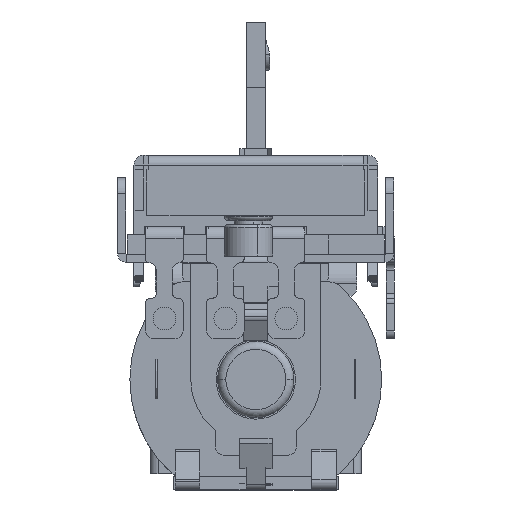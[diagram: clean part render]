
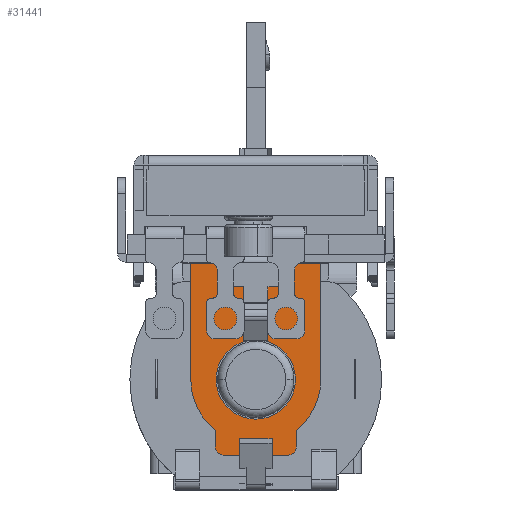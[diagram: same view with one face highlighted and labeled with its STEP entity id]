
A CAD part, left-side view. The second image highlights one B-rep face of the part: STEP entity #31441.
In plain terms, the highlighted planar face has unit normal (-1, 0, 0).
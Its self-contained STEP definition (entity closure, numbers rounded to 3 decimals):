
#3029 = DIRECTION ( 'NONE',  ( 0., 1., 0. ) ) ;
#3183 = CARTESIAN_POINT ( 'NONE',  ( 10.35, 0., -7.7 ) ) ;
#3288 = DIRECTION ( 'NONE',  ( 0., 0., -1. ) ) ;
#3500 = CARTESIAN_POINT ( 'NONE',  ( 10.35, 2.5, -10.822 ) ) ;
#3627 = CARTESIAN_POINT ( 'NONE',  ( 10.35, -4., -0.079 ) ) ;
#3670 = DIRECTION ( 'NONE',  ( 0., 0., 1. ) ) ;
#4124 = DIRECTION ( 'NONE',  ( -1., 0., 0. ) ) ;
#6091 = DIRECTION ( 'NONE',  ( 0., 1., 0. ) ) ;
#6093 = CARTESIAN_POINT ( 'NONE',  ( 10.35, -2., -12.35 ) ) ;
#6189 = DIRECTION ( 'NONE',  ( 0., -1., 0. ) ) ;
#6200 = DIRECTION ( 'NONE',  ( 1., 0., 0. ) ) ;
#6203 = CARTESIAN_POINT ( 'NONE',  ( 10.35, -2., -11.85 ) ) ;
#6751 = EDGE_CURVE ( 'NONE', #30300, #29703, #14581, .T. ) ;
#6836 = EDGE_CURVE ( 'NONE', #34550, #30205, #42075, .T. ) ;
#6848 = EDGE_CURVE ( 'NONE', #20158, #20111, #42113, .T. ) ;
#6871 = EDGE_CURVE ( 'NONE', #29703, #30916, #42149, .T. ) ;
#6911 = EDGE_CURVE ( 'NONE', #30017, #30300, #42228, .T. ) ;
#6912 = EDGE_CURVE ( 'NONE', #30205, #30017, #42233, .T. ) ;
#7043 = EDGE_CURVE ( 'NONE', #34435, #30135, #42495, .T. ) ;
#7046 = EDGE_CURVE ( 'NONE', #30135, #30064, #42492, .T. ) ;
#7186 = EDGE_CURVE ( 'NONE', #29639, #34435, #42775, .T. ) ;
#7769 = ORIENTED_EDGE ( 'NONE', *, *, #6848, .F. ) ;
#7770 = ORIENTED_EDGE ( 'NONE', *, *, #23760, .F. ) ;
#7771 = ORIENTED_EDGE ( 'NONE', *, *, #6871, .F. ) ;
#7774 = ORIENTED_EDGE ( 'NONE', *, *, #50597, .F. ) ;
#7782 = ORIENTED_EDGE ( 'NONE', *, *, #7186, .F. ) ;
#7788 = ORIENTED_EDGE ( 'NONE', *, *, #7043, .F. ) ;
#7789 = ORIENTED_EDGE ( 'NONE', *, *, #7046, .F. ) ;
#7790 = ORIENTED_EDGE ( 'NONE', *, *, #23078, .F. ) ;
#7792 = ORIENTED_EDGE ( 'NONE', *, *, #6836, .F. ) ;
#7793 = ORIENTED_EDGE ( 'NONE', *, *, #6912, .F. ) ;
#7797 = ORIENTED_EDGE ( 'NONE', *, *, #6911, .F. ) ;
#7802 = ORIENTED_EDGE ( 'NONE', *, *, #6751, .F. ) ;
#11113 = CARTESIAN_POINT ( 'NONE',  ( 10.35, -12.1, 26.021 ) ) ;
#11117 = PLANE ( 'NONE',  #53407 ) ;
#11125 = DIRECTION ( 'NONE',  ( -1., 0., 0. ) ) ;
#11126 = DIRECTION ( 'NONE',  ( 0., 1., 0. ) ) ;
#11672 = CARTESIAN_POINT ( 'NONE',  ( 10.35, 0., -7.7 ) ) ;
#11721 = DIRECTION ( 'NONE',  ( -1., 0., 0. ) ) ;
#11769 = DIRECTION ( 'NONE',  ( 0., 1., 0. ) ) ;
#14581 = LINE ( 'NONE', #44747, #14587 ) ;
#14587 = VECTOR ( 'NONE', #44596, 1000. ) ;
#15630 = CARTESIAN_POINT ( 'NONE',  ( 10.35, -2.5, -10.822 ) ) ;
#15681 = CARTESIAN_POINT ( 'NONE',  ( 10.35, -4., -0.55 ) ) ;
#15905 = CARTESIAN_POINT ( 'NONE',  ( 10.35, 4., -7.7 ) ) ;
#15931 = CARTESIAN_POINT ( 'NONE',  ( 10.35, 2., -12.35 ) ) ;
#15965 = CARTESIAN_POINT ( 'NONE',  ( 10.35, -2., -12.35 ) ) ;
#16003 = CARTESIAN_POINT ( 'NONE',  ( 10.35, 2.5, -10.822 ) ) ;
#16053 = CARTESIAN_POINT ( 'NONE',  ( 10.35, 4., -0.55 ) ) ;
#16730 = CARTESIAN_POINT ( 'NONE',  ( 10.35, -4., -7.7 ) ) ;
#20111 = VERTEX_POINT ( 'NONE', #50128 ) ;
#20158 = VERTEX_POINT ( 'NONE', #50081 ) ;
#23078 = EDGE_CURVE ( 'NONE', #30064, #34550, #36359, .T. ) ;
#23760 = EDGE_CURVE ( 'NONE', #20111, #20158, #25701, .T. ) ;
#25701 = CIRCLE ( 'NONE', #58331, 2.443 ) ;
#29639 = VERTEX_POINT ( 'NONE', #15630 ) ;
#29703 = VERTEX_POINT ( 'NONE', #15681 ) ;
#30017 = VERTEX_POINT ( 'NONE', #15905 ) ;
#30064 = VERTEX_POINT ( 'NONE', #15931 ) ;
#30135 = VERTEX_POINT ( 'NONE', #15965 ) ;
#30205 = VERTEX_POINT ( 'NONE', #16003 ) ;
#30300 = VERTEX_POINT ( 'NONE', #16053 ) ;
#30916 = VERTEX_POINT ( 'NONE', #16730 ) ;
#31441 = ADVANCED_FACE ( 'NONE', ( #34664, #34649 ), #11117, .T. ) ;
#34435 = VERTEX_POINT ( 'NONE', #44929 ) ;
#34550 = VERTEX_POINT ( 'NONE', #44959 ) ;
#34649 = FACE_BOUND ( 'NONE', #50741, .T. ) ;
#34664 = FACE_OUTER_BOUND ( 'NONE', #50752, .T. ) ;
#36359 = CIRCLE ( 'NONE', #54363, 0.5 ) ;
#40530 = DIRECTION ( 'NONE',  ( 0., 1., 0. ) ) ;
#40531 = DIRECTION ( 'NONE',  ( 1., 0., 0. ) ) ;
#40532 = CARTESIAN_POINT ( 'NONE',  ( 10.35, 0., -7.7 ) ) ;
#40533 = DIRECTION ( 'NONE',  ( 0., 0., 1. ) ) ;
#40534 = CARTESIAN_POINT ( 'NONE',  ( 10.35, 4., -0.079 ) ) ;
#41051 = CARTESIAN_POINT ( 'NONE',  ( 10.35, 0., -7.7 ) ) ;
#41054 = DIRECTION ( 'NONE',  ( 1., 0., 0. ) ) ;
#41055 = DIRECTION ( 'NONE',  ( 0., 1., 0. ) ) ;
#42075 = LINE ( 'NONE', #3500, #42081 ) ;
#42081 = VECTOR ( 'NONE', #3670, 1000. ) ;
#42113 = CIRCLE ( 'NONE', #54413, 2.443 ) ;
#42149 = LINE ( 'NONE', #3627, #42154 ) ;
#42154 = VECTOR ( 'NONE', #3288, 1000. ) ;
#42228 = LINE ( 'NONE', #40534, #42229 ) ;
#42229 = VECTOR ( 'NONE', #40533, 1000. ) ;
#42233 = CIRCLE ( 'NONE', #54440, 4. ) ;
#42492 = LINE ( 'NONE', #6093, #42493 ) ;
#42493 = VECTOR ( 'NONE', #6091, 1000. ) ;
#42495 = CIRCLE ( 'NONE', #54539, 0.5 ) ;
#42775 = LINE ( 'NONE', #52745, #42776 ) ;
#42776 = VECTOR ( 'NONE', #52288, 1000. ) ;
#44596 = DIRECTION ( 'NONE',  ( 0., -1., 0. ) ) ;
#44747 = CARTESIAN_POINT ( 'NONE',  ( 10.35, -12.1, -0.55 ) ) ;
#44929 = CARTESIAN_POINT ( 'NONE',  ( 10.35, -2.5, -11.85 ) ) ;
#44959 = CARTESIAN_POINT ( 'NONE',  ( 10.35, 2.5, -11.85 ) ) ;
#49653 = DIRECTION ( 'NONE',  ( 0., 1., 0. ) ) ;
#49657 = DIRECTION ( 'NONE',  ( 1., 0., 0. ) ) ;
#49664 = CARTESIAN_POINT ( 'NONE',  ( 10.35, 2., -11.85 ) ) ;
#50081 = CARTESIAN_POINT ( 'NONE',  ( 10.35, 2.442, -7.7 ) ) ;
#50128 = CARTESIAN_POINT ( 'NONE',  ( 10.35, -2.443, -7.7 ) ) ;
#50597 = EDGE_CURVE ( 'NONE', #30916, #29639, #57841, .T. ) ;
#50741 = EDGE_LOOP ( 'NONE', ( #7770, #7769 ) ) ;
#50752 = EDGE_LOOP ( 'NONE', ( #7802, #7797, #7793, #7792, #7790, #7789, #7788, #7782, #7774, #7771 ) ) ;
#52288 = DIRECTION ( 'NONE',  ( 0., 0., -1. ) ) ;
#52745 = CARTESIAN_POINT ( 'NONE',  ( 10.35, -2.5, -10.822 ) ) ;
#53407 = AXIS2_PLACEMENT_3D ( 'NONE', #11113, #11125, #11126 ) ;
#54123 = AXIS2_PLACEMENT_3D ( 'NONE', #41051, #41054, #41055 ) ;
#54363 = AXIS2_PLACEMENT_3D ( 'NONE', #49664, #49657, #49653 ) ;
#54413 = AXIS2_PLACEMENT_3D ( 'NONE', #3183, #4124, #3029 ) ;
#54440 = AXIS2_PLACEMENT_3D ( 'NONE', #40532, #40531, #40530 ) ;
#54539 = AXIS2_PLACEMENT_3D ( 'NONE', #6203, #6200, #6189 ) ;
#57841 = CIRCLE ( 'NONE', #54123, 4. ) ;
#58331 = AXIS2_PLACEMENT_3D ( 'NONE', #11672, #11721, #11769 ) ;
